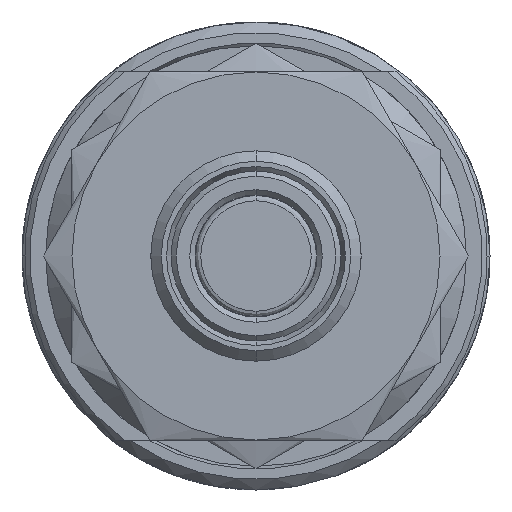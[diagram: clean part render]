
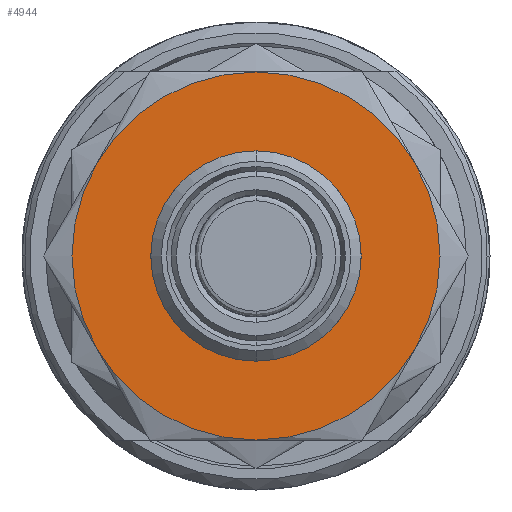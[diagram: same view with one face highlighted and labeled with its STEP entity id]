
A CAD part, front view. The second image highlights one B-rep face of the part: STEP entity #4944.
In plain terms, the highlighted planar face has unit normal (0, -1, 0) as drawn and (0, 0, 1) by its records, which use the part's own axes.
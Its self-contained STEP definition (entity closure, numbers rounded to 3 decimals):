
#4428=CARTESIAN_POINT('',(0.,0.,2.2));
#4429=DIRECTION('',(0.,0.,1.));
#4430=DIRECTION('',(-0.5,-0.866,0.));
#4431=AXIS2_PLACEMENT_3D('',#4428,#4429,#4430);
#4436=CARTESIAN_POINT('',(0.,0.,2.2));
#4437=DIRECTION('',(0.,0.,-1.));
#4438=DIRECTION('',(-0.5,-0.866,0.));
#4439=AXIS2_PLACEMENT_3D('',#4436,#4437,#4438);
#4444=CARTESIAN_POINT('',(0.,0.,2.2));
#4445=DIRECTION('',(0.,0.,-1.));
#4446=DIRECTION('',(-1.,0.,0.));
#4447=AXIS2_PLACEMENT_3D('',#4444,#4445,#4446);
#4452=CARTESIAN_POINT('',(0.,0.,2.2));
#4453=DIRECTION('',(0.,0.,-1.));
#4454=DIRECTION('',(0.5,0.866,0.));
#4455=AXIS2_PLACEMENT_3D('',#4452,#4453,#4454);
#4460=CARTESIAN_POINT('',(0.,0.,2.2));
#4461=DIRECTION('',(0.,0.,-1.));
#4462=DIRECTION('',(1.,0.,0.));
#4463=AXIS2_PLACEMENT_3D('',#4460,#4461,#4462);
#4468=CARTESIAN_POINT('',(0.,0.,2.2));
#4469=DIRECTION('',(0.,0.,-1.));
#4470=DIRECTION('',(0.,-1.,0.));
#4471=AXIS2_PLACEMENT_3D('',#4468,#4469,#4470);
#4476=CARTESIAN_POINT('',(0.,0.,2.2));
#4477=DIRECTION('',(0.,0.,-1.));
#4478=DIRECTION('',(0.,1.,0.));
#4479=AXIS2_PLACEMENT_3D('',#4476,#4477,#4478);
#4484=CARTESIAN_POINT('',(0.,0.,2.2));
#4485=DIRECTION('',(0.,0.,1.));
#4486=DIRECTION('',(0.5,0.866,0.));
#4487=AXIS2_PLACEMENT_3D('',#4484,#4485,#4486);
#4610=CARTESIAN_POINT('',(-1.75,-3.031,2.2));
#4611=CARTESIAN_POINT('',(-3.5,0.,2.2));
#4612=VERTEX_POINT('',#4610);
#4613=VERTEX_POINT('',#4611);
#4614=CARTESIAN_POINT('',(-1.75,3.031,2.2));
#4615=VERTEX_POINT('',#4614);
#4616=CARTESIAN_POINT('',(1.75,3.031,2.2));
#4617=CARTESIAN_POINT('',(3.5,0.,2.2));
#4618=VERTEX_POINT('',#4616);
#4619=VERTEX_POINT('',#4617);
#4620=CARTESIAN_POINT('',(1.75,-3.031,2.2));
#4621=VERTEX_POINT('',#4620);
#4638=CARTESIAN_POINT('',(0.,-2.,2.2));
#4639=CARTESIAN_POINT('',(0.,2.,2.2));
#4640=VERTEX_POINT('',#4638);
#4641=VERTEX_POINT('',#4639);
#4924=CARTESIAN_POINT('',(0.,0.,2.2));
#4925=DIRECTION('',(0.,0.,1.));
#4926=DIRECTION('',(1.,0.,0.));
#4927=AXIS2_PLACEMENT_3D('',#4924,#4925,#4926);
#4928=PLANE('',#4927);
#4929=ORIENTED_EDGE('',*,*,#4919,.F.);
#4930=ORIENTED_EDGE('',*,*,#4881,.T.);
#4931=ORIENTED_EDGE('',*,*,#4869,.T.);
#4933=ORIENTED_EDGE('',*,*,#4932,.F.);
#4934=ORIENTED_EDGE('',*,*,#4893,.T.);
#4935=ORIENTED_EDGE('',*,*,#4905,.T.);
#4936=EDGE_LOOP('',(#4929,#4930,#4931,#4933,#4934,#4935));
#4937=FACE_OUTER_BOUND('',#4936,.F.);
#4939=ORIENTED_EDGE('',*,*,#4938,.F.);
#4941=ORIENTED_EDGE('',*,*,#4940,.F.);
#4942=EDGE_LOOP('',(#4939,#4941));
#4943=FACE_BOUND('',#4942,.F.);
#4432=CIRCLE('',#4431,3.5);
#4440=CIRCLE('',#4439,3.5);
#4448=CIRCLE('',#4447,3.5);
#4456=CIRCLE('',#4455,3.5);
#4464=CIRCLE('',#4463,3.5);
#4472=CIRCLE('',#4471,2.);
#4480=CIRCLE('',#4479,2.);
#4488=CIRCLE('',#4487,3.5);
#4869=EDGE_CURVE('',#4613,#4615,#4448,.T.);
#4881=EDGE_CURVE('',#4612,#4613,#4440,.T.);
#4893=EDGE_CURVE('',#4618,#4619,#4456,.T.);
#4905=EDGE_CURVE('',#4619,#4621,#4464,.T.);
#4919=EDGE_CURVE('',#4612,#4621,#4432,.T.);
#4932=EDGE_CURVE('',#4618,#4615,#4488,.T.);
#4938=EDGE_CURVE('',#4640,#4641,#4472,.T.);
#4940=EDGE_CURVE('',#4641,#4640,#4480,.T.);
#4944=ADVANCED_FACE('',(#4937,#4943),#4928,.T.);
